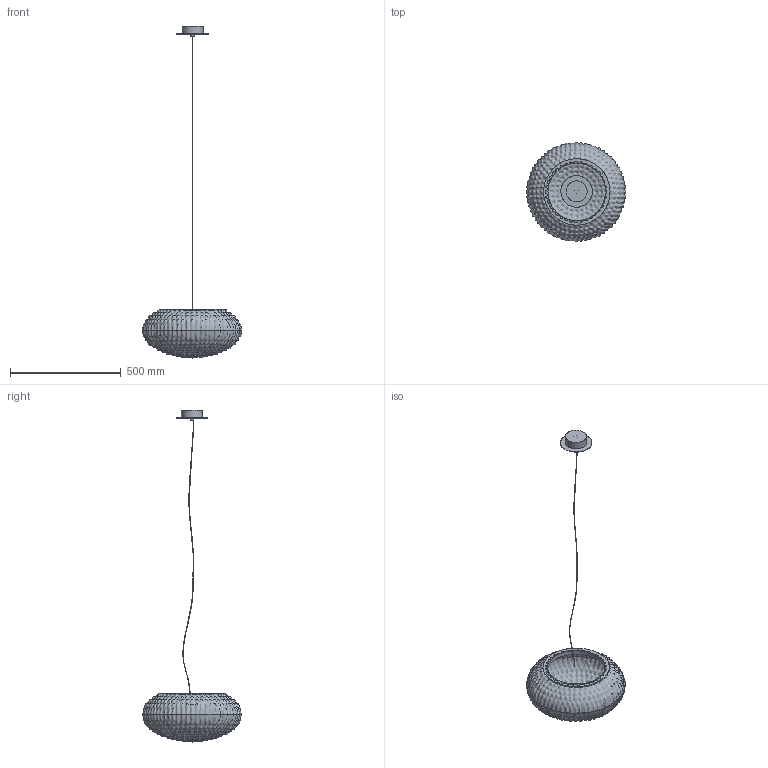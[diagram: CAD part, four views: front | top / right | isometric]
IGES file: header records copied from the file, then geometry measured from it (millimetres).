
Global section: file name: C:\Users\UsuarioSaavedra\Desktop\3D - 2013\TERMINADOS\TA04-1\TA04-1_3D.igs; native system: Rhinoceros ( Apr  1 2010 ); preprocessor: Trout Lake IGES 012 Apr  1 2010; date: 130422.104809; units: centimetre
Bounding box: 450 x 445.95 x 1498.23 mm (x, y, z)
Surface area: 520141.1 mm2 (no closed solid volume)
Topology: 0 solids, 0 shells, 22 faces, 9499 edges, 9485 vertices
Faces by surface type: bspline 22
